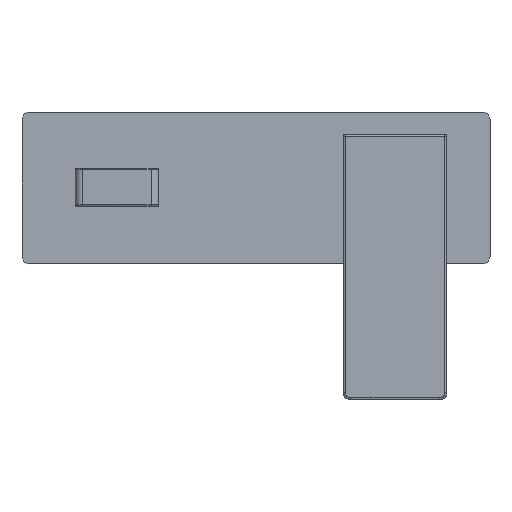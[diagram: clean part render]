
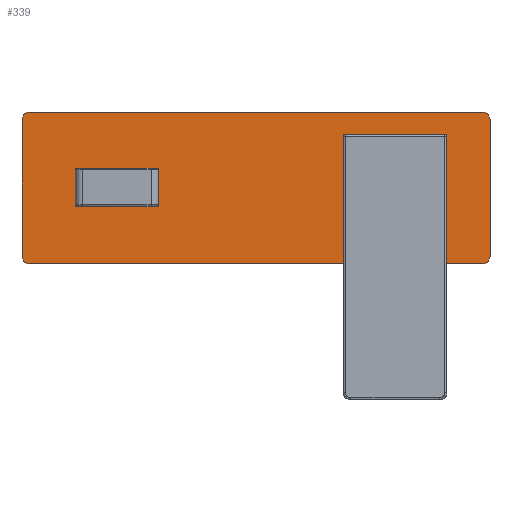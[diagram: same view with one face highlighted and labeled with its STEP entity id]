
A CAD part, top view. The second image highlights one B-rep face of the part: STEP entity #339.
In plain terms, the highlighted planar face has unit normal (0, 0, 1).
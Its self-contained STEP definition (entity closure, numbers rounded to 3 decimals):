
#59=CARTESIAN_POINT('',(-14.5,50.5,31.0));
#60=VERTEX_POINT('',#59);
#67=CARTESIAN_POINT('',(164.5,50.5,31.0));
#68=VERTEX_POINT('',#67);
#69=CARTESIAN_POINT('',(164.5,50.5,31.0));
#70=DIRECTION('',(-1.0,0.0,0.0));
#71=VECTOR('',#70,179.0);
#72=LINE('',#69,#71);
#73=EDGE_CURVE('',#68,#60,#72,.T.);
#90=CARTESIAN_POINT('',(167.5,47.5,31.0));
#91=VERTEX_POINT('',#90);
#92=CARTESIAN_POINT('',(164.5,47.5,31.0));
#93=DIRECTION('',(0.0,0.0,1.0));
#94=DIRECTION('',(1.0,0.0,0.0));
#95=AXIS2_PLACEMENT_3D('',#92,#93,#94);
#96=CIRCLE('',#95,3.0);
#97=EDGE_CURVE('',#91,#68,#96,.T.);
#181=CARTESIAN_POINT('',(167.5,-6.5,31.0));
#182=VERTEX_POINT('',#181);
#189=CARTESIAN_POINT('',(164.5,-9.5,31.0));
#190=VERTEX_POINT('',#189);
#191=CARTESIAN_POINT('',(164.5,-6.5,31.0));
#192=DIRECTION('',(0.0,0.0,1.0));
#193=DIRECTION('',(0.0,-1.0,0.0));
#194=AXIS2_PLACEMENT_3D('',#191,#192,#193);
#195=CIRCLE('',#194,3.0);
#196=EDGE_CURVE('',#190,#182,#195,.T.);
#213=CARTESIAN_POINT('',(-14.5,-9.5,31.0));
#214=VERTEX_POINT('',#213);
#215=CARTESIAN_POINT('',(-14.5,-9.5,31.0));
#216=DIRECTION('',(1.0,0.0,0.0));
#217=VECTOR('',#216,179.0);
#218=LINE('',#215,#217);
#219=EDGE_CURVE('',#214,#190,#218,.T.);
#238=CARTESIAN_POINT('',(-17.5,-6.5,31.0));
#239=VERTEX_POINT('',#238);
#240=CARTESIAN_POINT('',(-14.5,-6.5,31.0));
#241=DIRECTION('',(0.0,0.0,1.0));
#242=DIRECTION('',(-1.0,0.0,0.0));
#243=AXIS2_PLACEMENT_3D('',#240,#241,#242);
#244=CIRCLE('',#243,3.0);
#245=EDGE_CURVE('',#239,#214,#244,.T.);
#262=CARTESIAN_POINT('',(-17.5,47.5,31.0));
#263=VERTEX_POINT('',#262);
#264=CARTESIAN_POINT('',(-17.5,47.5,31.0));
#265=DIRECTION('',(0.0,-1.0,0.0));
#266=VECTOR('',#265,54.0);
#267=LINE('',#264,#266);
#268=EDGE_CURVE('',#263,#239,#267,.T.);
#287=CARTESIAN_POINT('',(-14.5,47.5,31.0));
#288=DIRECTION('',(0.0,0.0,1.0));
#289=DIRECTION('',(0.0,1.0,0.0));
#290=AXIS2_PLACEMENT_3D('',#287,#288,#289);
#291=CIRCLE('',#290,3.0);
#292=EDGE_CURVE('',#60,#263,#291,.T.);
#299=CARTESIAN_POINT('',(-26.75,-12.5,31.0));
#300=DIRECTION('',(0.0,0.0,1.0));
#301=DIRECTION('',(1.0,0.0,0.0));
#302=AXIS2_PLACEMENT_3D('',#299,#300,#301);
#303=PLANE('',#302);
#304=CARTESIAN_POINT('',(167.5,-6.5,31.0));
#305=DIRECTION('',(0.0,1.0,0.0));
#306=VECTOR('',#305,54.0);
#307=LINE('',#304,#306);
#308=EDGE_CURVE('',#182,#91,#307,.T.);
#309=ORIENTED_EDGE('',*,*,#308,.T.);
#310=ORIENTED_EDGE('',*,*,#97,.T.);
#311=ORIENTED_EDGE('',*,*,#73,.T.);
#312=ORIENTED_EDGE('',*,*,#292,.T.);
#313=ORIENTED_EDGE('',*,*,#268,.T.);
#314=ORIENTED_EDGE('',*,*,#245,.T.);
#315=ORIENTED_EDGE('',*,*,#219,.T.);
#316=ORIENTED_EDGE('',*,*,#196,.T.);
#317=EDGE_LOOP('',(#309,#310,#311,#312,#313,#314,#315,#316));
#318=FACE_OUTER_BOUND('',#317,.T.);
#319=CARTESIAN_POINT('',(130.0,41.0,31.0));
#320=VERTEX_POINT('',#319);
#321=CARTESIAN_POINT('',(130.0,0.0,31.0));
#322=VERTEX_POINT('',#321);
#323=CARTESIAN_POINT('',(130.0,20.5,31.0));
#324=DIRECTION('',(0.0,0.0,1.0));
#325=DIRECTION('',(0.0,1.0,0.0));
#326=AXIS2_PLACEMENT_3D('',#323,#324,#325);
#327=CIRCLE('',#326,20.5);
#328=EDGE_CURVE('',#320,#322,#327,.T.);
#329=ORIENTED_EDGE('',*,*,#328,.F.);
#330=CARTESIAN_POINT('',(130.0,20.5,31.0));
#331=DIRECTION('',(0.0,0.0,1.0));
#332=DIRECTION('',(0.0,-1.0,0.0));
#333=AXIS2_PLACEMENT_3D('',#330,#331,#332);
#334=CIRCLE('',#333,20.5);
#335=EDGE_CURVE('',#322,#320,#334,.T.);
#336=ORIENTED_EDGE('',*,*,#335,.F.);
#337=EDGE_LOOP('',(#329,#336));
#338=FACE_BOUND('',#337,.T.);
#339=ADVANCED_FACE('',(#318,#338),#303,.T.);
